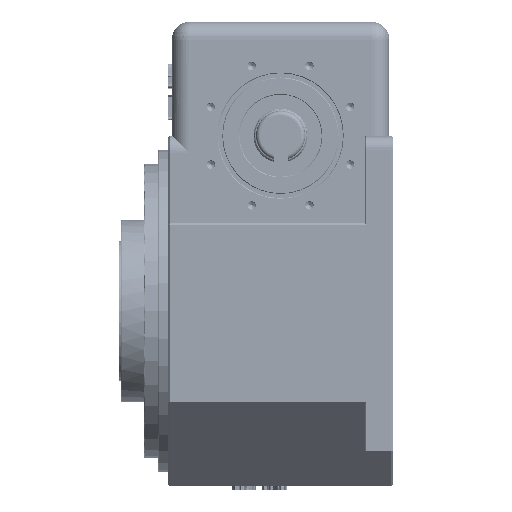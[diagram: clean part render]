
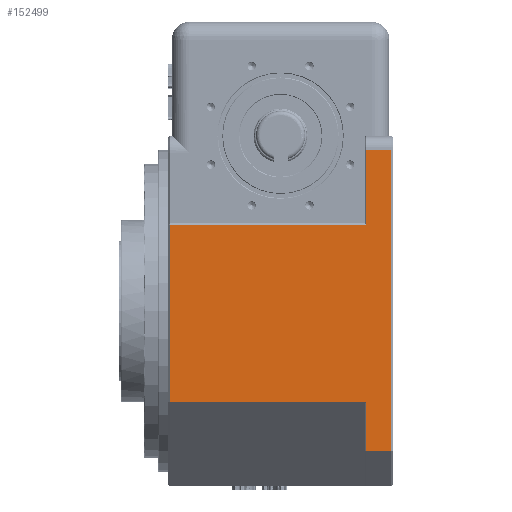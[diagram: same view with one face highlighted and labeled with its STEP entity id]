
A CAD part, left-side view. The second image highlights one B-rep face of the part: STEP entity #152499.
In plain terms, the highlighted planar face has unit normal (-1, 0, 0).
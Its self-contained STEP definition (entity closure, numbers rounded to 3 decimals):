
#35 = FACE_OUTER_BOUND ( 'NONE', #91880, .T. ) ;
#5523 = VECTOR ( 'NONE', #215220, 1000. ) ;
#12017 = EDGE_CURVE ( 'NONE', #210553, #68640, #131418, .T. ) ;
#17360 = VECTOR ( 'NONE', #110507, 1000. ) ;
#17530 = CARTESIAN_POINT ( 'NONE',  ( -250., 2., 230. ) ) ;
#17675 = EDGE_CURVE ( 'NONE', #146974, #149907, #163763, .T. ) ;
#18801 = CARTESIAN_POINT ( 'NONE',  ( -250., 38., -200. ) ) ;
#25700 = LINE ( 'NONE', #132972, #161010 ) ;
#31929 = CARTESIAN_POINT ( 'NONE',  ( -250., 2., -200. ) ) ;
#36135 = CARTESIAN_POINT ( 'NONE',  ( -250., 320., -200. ) ) ;
#36196 = CARTESIAN_POINT ( 'NONE',  ( -250., 38., -200. ) ) ;
#41868 = VECTOR ( 'NONE', #183136, 1000. ) ;
#43502 = ORIENTED_EDGE ( 'NONE', *, *, #103809, .F. ) ;
#44647 = ORIENTED_EDGE ( 'NONE', *, *, #139758, .F. ) ;
#45702 = VERTEX_POINT ( 'NONE', #89619 ) ;
#47361 = LINE ( 'NONE', #165443, #41868 ) ;
#49617 = DIRECTION ( 'NONE',  ( 0., 0., -1. ) ) ;
#52250 = CARTESIAN_POINT ( 'NONE',  ( -250., 38., 230. ) ) ;
#53851 = DIRECTION ( 'NONE',  ( 1., 0., 0. ) ) ;
#68640 = VERTEX_POINT ( 'NONE', #105710 ) ;
#74606 = EDGE_CURVE ( 'NONE', #175654, #68640, #47361, .T. ) ;
#77917 = EDGE_CURVE ( 'NONE', #113909, #146974, #187720, .T. ) ;
#84440 = VECTOR ( 'NONE', #49617, 1000. ) ;
#86351 = CARTESIAN_POINT ( 'NONE',  ( -250., 318., -130. ) ) ;
#89619 = CARTESIAN_POINT ( 'NONE',  ( -250., 38., -130. ) ) ;
#91880 = EDGE_LOOP ( 'NONE', ( #43502, #44647, #204669, #124531, #111332, #148483, #162161, #137009 ) ) ;
#94393 = CARTESIAN_POINT ( 'NONE',  ( -250., 38., -200. ) ) ;
#103809 = EDGE_CURVE ( 'NONE', #176968, #210553, #110572, .T. ) ;
#105710 = CARTESIAN_POINT ( 'NONE',  ( -250., 2., -200. ) ) ;
#109509 = CARTESIAN_POINT ( 'NONE',  ( -250., 318., -200. ) ) ;
#110507 = DIRECTION ( 'NONE',  ( 0., -1., 0. ) ) ;
#110572 = LINE ( 'NONE', #197397, #146522 ) ;
#111332 = ORIENTED_EDGE ( 'NONE', *, *, #153302, .F. ) ;
#113909 = VERTEX_POINT ( 'NONE', #86351 ) ;
#124531 = ORIENTED_EDGE ( 'NONE', *, *, #77917, .F. ) ;
#131418 = LINE ( 'NONE', #31929, #84440 ) ;
#132972 = CARTESIAN_POINT ( 'NONE',  ( -250., 320., -130. ) ) ;
#134412 = LINE ( 'NONE', #94393, #175760 ) ;
#137009 = ORIENTED_EDGE ( 'NONE', *, *, #12017, .F. ) ;
#137340 = VECTOR ( 'NONE', #159676, 1000. ) ;
#139758 = EDGE_CURVE ( 'NONE', #149907, #176968, #225702, .T. ) ;
#141881 = PLANE ( 'NONE',  #152378 ) ;
#146522 = VECTOR ( 'NONE', #164269, 1000. ) ;
#146974 = VERTEX_POINT ( 'NONE', #208566 ) ;
#147739 = DIRECTION ( 'NONE',  ( 0., 0., 1. ) ) ;
#148483 = ORIENTED_EDGE ( 'NONE', *, *, #192449, .F. ) ;
#149907 = VERTEX_POINT ( 'NONE', #150013 ) ;
#150013 = CARTESIAN_POINT ( 'NONE',  ( -250., 38., 123. ) ) ;
#152378 = AXIS2_PLACEMENT_3D ( 'NONE', #36135, #53851, #177274 ) ;
#152499 = ADVANCED_FACE ( 'NONE', ( #35 ), #141881, .F. ) ;
#153302 = EDGE_CURVE ( 'NONE', #45702, #113909, #25700, .T. ) ;
#159676 = DIRECTION ( 'NONE',  ( 0., 0., 1. ) ) ;
#161010 = VECTOR ( 'NONE', #193041, 1000. ) ;
#161495 = CARTESIAN_POINT ( 'NONE',  ( -250., 320., 123. ) ) ;
#162161 = ORIENTED_EDGE ( 'NONE', *, *, #74606, .T. ) ;
#163763 = LINE ( 'NONE', #161495, #17360 ) ;
#164269 = DIRECTION ( 'NONE',  ( 0., -1., 0. ) ) ;
#165443 = CARTESIAN_POINT ( 'NONE',  ( -250., 320., -200. ) ) ;
#175654 = VERTEX_POINT ( 'NONE', #18801 ) ;
#175760 = VECTOR ( 'NONE', #147739, 1000. ) ;
#176968 = VERTEX_POINT ( 'NONE', #52250 ) ;
#177274 = DIRECTION ( 'NONE',  ( 0., 0., -1. ) ) ;
#183136 = DIRECTION ( 'NONE',  ( 0., -1., 0. ) ) ;
#187720 = LINE ( 'NONE', #109509, #5523 ) ;
#192449 = EDGE_CURVE ( 'NONE', #175654, #45702, #134412, .T. ) ;
#193041 = DIRECTION ( 'NONE',  ( 0., 1., 0. ) ) ;
#197397 = CARTESIAN_POINT ( 'NONE',  ( -250., 320., 230. ) ) ;
#204669 = ORIENTED_EDGE ( 'NONE', *, *, #17675, .F. ) ;
#208566 = CARTESIAN_POINT ( 'NONE',  ( -250., 318., 123. ) ) ;
#210553 = VERTEX_POINT ( 'NONE', #17530 ) ;
#215220 = DIRECTION ( 'NONE',  ( 0., 0., 1. ) ) ;
#225702 = LINE ( 'NONE', #36196, #137340 ) ;
